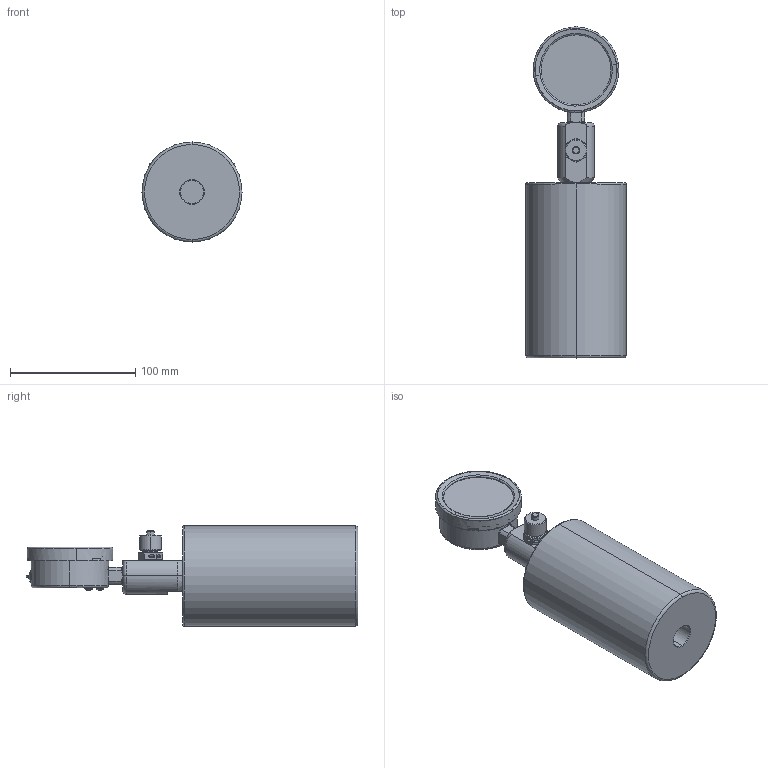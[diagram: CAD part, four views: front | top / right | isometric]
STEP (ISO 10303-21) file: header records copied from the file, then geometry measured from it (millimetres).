
FILE_DESCRIPTION (( 'STEP AP214' ), '1' );
FILE_NAME ('U002A01X1-PC_PD_PP (DGA).STEP', '2025-04-08T14:24:08', ( '' ), ( '' ), 'SwSTEP 2.0', 'SolidWorks 2024', '' );
FILE_SCHEMA (( 'AUTOMOTIVE_DESIGN' ));
Length unit declared in the file: millimetre
Products named in the file (1): U002A01X1-PC_PD_PP (DGA)
Bounding box: 80 x 265.4 x 80 mm (x, y, z)
Surface area: 96548 mm2 (no closed solid volume)
Topology: 0 solids, 19 shells, 803 faces, 2591 edges, 1749 vertices
Faces by surface type: plane 301, bspline 187, cylinder 180, cone 67, torus 58, sphere 10
Entity records: 60767 total; most frequent: CARTESIAN_POINT 31351, ORIENTED_EDGE 4386, DIRECTION 3550, EDGE_CURVE 2589, VERTEX_POINT 1749, LINE 1352, VECTOR 1352, AXIS2_PLACEMENT_3D 1099
